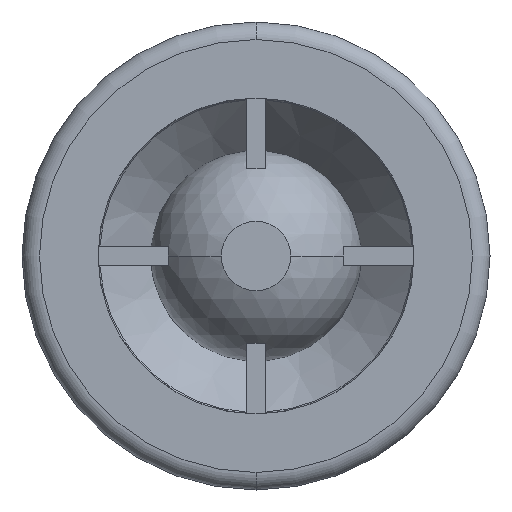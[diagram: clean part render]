
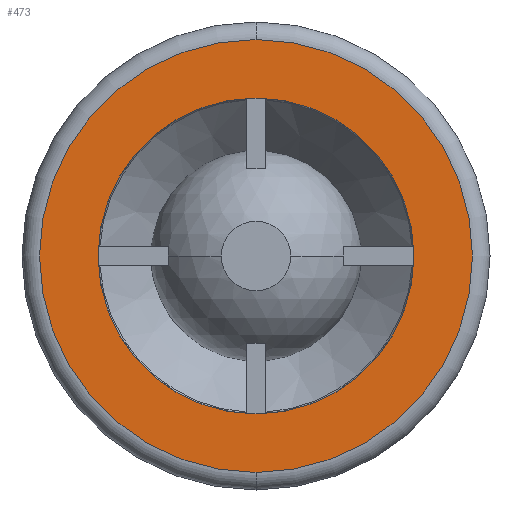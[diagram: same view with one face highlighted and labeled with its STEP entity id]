
A CAD part, front view. The second image highlights one B-rep face of the part: STEP entity #473.
In plain terms, the highlighted planar face has unit normal (0, -1, 0).
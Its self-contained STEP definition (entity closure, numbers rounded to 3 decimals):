
#201 = EDGE_CURVE ( 'NONE', #1246, #1204, #1935, .T. ) ;
#454 = EDGE_LOOP ( 'NONE', ( #1097, #1100 ) ) ;
#473 = ADVANCED_FACE ( 'NONE', ( #2387, #2381 ), #2380, .F. ) ;
#1097 = ORIENTED_EDGE ( 'NONE', *, *, #1099, .T. ) ;
#1098 = EDGE_LOOP ( 'NONE', ( #1102, #1101 ) ) ;
#1099 = EDGE_CURVE ( 'NONE', #1148, #1147, #3588, .T. ) ;
#1100 = ORIENTED_EDGE ( 'NONE', *, *, #1146, .T. ) ;
#1101 = ORIENTED_EDGE ( 'NONE', *, *, #1245, .F. ) ;
#1102 = ORIENTED_EDGE ( 'NONE', *, *, #201, .F. ) ;
#1146 = EDGE_CURVE ( 'NONE', #1147, #1148, #3642, .T. ) ;
#1147 = VERTEX_POINT ( 'NONE', #3637 ) ;
#1148 = VERTEX_POINT ( 'NONE', #3636 ) ;
#1204 = VERTEX_POINT ( 'NONE', #3763 ) ;
#1245 = EDGE_CURVE ( 'NONE', #1204, #1246, #3816, .T. ) ;
#1246 = VERTEX_POINT ( 'NONE', #3811 ) ;
#1931 = DIRECTION ( 'NONE',  ( 0., 0., -1. ) ) ;
#1932 = DIRECTION ( 'NONE',  ( 0., -1., 0. ) ) ;
#1933 = CARTESIAN_POINT ( 'NONE',  ( 0., 0., 0. ) ) ;
#1934 = AXIS2_PLACEMENT_3D ( 'NONE', #1933, #1932, #1931 ) ;
#1935 = CIRCLE ( 'NONE', #1934, 13.5 ) ;
#2376 = DIRECTION ( 'NONE',  ( 0., 0., 1. ) ) ;
#2377 = DIRECTION ( 'NONE',  ( 0., 1., 0. ) ) ;
#2378 = CARTESIAN_POINT ( 'NONE',  ( -13.5, 0., 0. ) ) ;
#2379 = AXIS2_PLACEMENT_3D ( 'NONE', #2378, #2377, #2376 ) ;
#2380 = PLANE ( 'NONE',  #2379 ) ;
#2381 = FACE_BOUND ( 'NONE', #1098, .T. ) ;
#2387 = FACE_OUTER_BOUND ( 'NONE', #454, .T. ) ;
#3584 = DIRECTION ( 'NONE',  ( 0., 0., 1. ) ) ;
#3585 = DIRECTION ( 'NONE',  ( 0., -1., 0. ) ) ;
#3586 = CARTESIAN_POINT ( 'NONE',  ( 0., 0., 0. ) ) ;
#3587 = AXIS2_PLACEMENT_3D ( 'NONE', #3586, #3585, #3584 ) ;
#3588 = CIRCLE ( 'NONE', #3587, 18.5 ) ;
#3636 = CARTESIAN_POINT ( 'NONE',  ( 0., 0., 18.5 ) ) ;
#3637 = CARTESIAN_POINT ( 'NONE',  ( 0., 0., -18.5 ) ) ;
#3638 = DIRECTION ( 'NONE',  ( 0., 0., 1. ) ) ;
#3639 = DIRECTION ( 'NONE',  ( 0., -1., 0. ) ) ;
#3640 = CARTESIAN_POINT ( 'NONE',  ( 0., 0., 0. ) ) ;
#3641 = AXIS2_PLACEMENT_3D ( 'NONE', #3640, #3639, #3638 ) ;
#3642 = CIRCLE ( 'NONE', #3641, 18.5 ) ;
#3763 = CARTESIAN_POINT ( 'NONE',  ( 0., 0., 13.5 ) ) ;
#3811 = CARTESIAN_POINT ( 'NONE',  ( 0., 0., -13.5 ) ) ;
#3812 = DIRECTION ( 'NONE',  ( 0., 0., -1. ) ) ;
#3813 = DIRECTION ( 'NONE',  ( 0., -1., 0. ) ) ;
#3814 = CARTESIAN_POINT ( 'NONE',  ( 0., 0., 0. ) ) ;
#3815 = AXIS2_PLACEMENT_3D ( 'NONE', #3814, #3813, #3812 ) ;
#3816 = CIRCLE ( 'NONE', #3815, 13.5 ) ;
